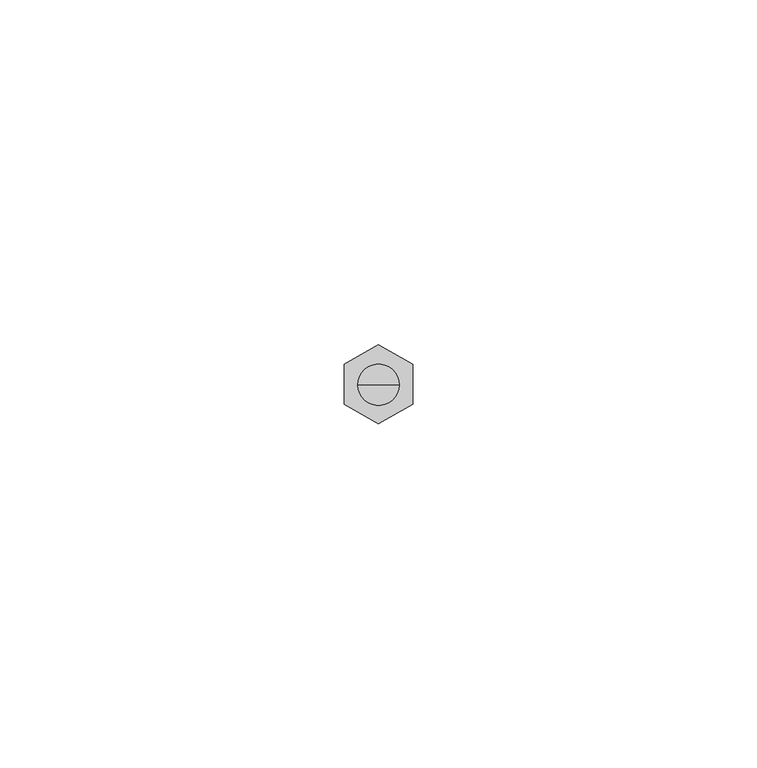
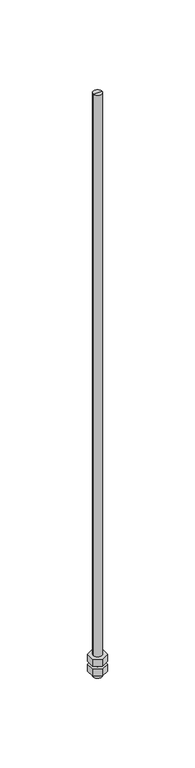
"""IFC4 building model written with IfcOpenShell, lengths in millimetres: proxy geometry, durlum_threaded_rod_M6 : durlum_threaded_rod_M6."""

from ifc_helpers import new_model, si_unit, frame, origin, origin_with_axes, place, context, project, spatial, polyline, circle_curve, outline, extrude, source, transform, mapped, element, save
from ifc_brep_helpers import plane_surface, cylinder_surface, advanced_brep


def generic_models_f72345d6(model_context):
    return source(origin(), model_context, "Body", "SolidModel", [
        extrude(outline(polyline([(5.0, 3.0421914), (5.0, -2.7313113), (0.0, -5.6180626), (-5.0, -2.7313113), (-5.0, 3.0421914), (0.0, 5.9289428), (5.0, 3.0421914)])), frame((0.0, 0.0, -7.0), z_axis=(0.0, 0.0, 1.0), x_axis=(1.0, 0.0, 0.0)), (0.0, 0.0, 1.0), 5.0),
        extrude(outline(polyline([(5.0, 3.0421914), (5.0, -2.7313113), (0.0, -5.6180626), (-5.0, -2.7313113), (-5.0, 3.0421914), (0.0, 5.9289428), (5.0, 3.0421914)])), origin_with_axes(), (0.0, 0.0, 1.0), 5.0),
        advanced_brep(
        [(-3.0, 0.0, 406.55), (3.0, 0.0, 406.55), (3.0, 0.0, -10.0), (-3.0, 0.0, -10.0), (0.0, 0.0, 406.55), (0.0, 0.0, -10.0)],
        [
            (0, 1, circle_curve(frame((0.0, 0.0, 406.55), z_axis=(0.0, 0.0, -1.0), x_axis=(1.0, 0.0, 0.0)), 3.0)),
            (1, 2),
            (2, 3, circle_curve(frame((0.0, 0.0, -10.0), z_axis=(0.0, 0.0, 1.0), x_axis=(1.0, 0.0, 0.0)), 3.0)),
            (3, 0),
            (1, 0, circle_curve(frame((0.0, 0.0, 406.55), z_axis=(0.0, 0.0, -1.0), x_axis=(1.0, 0.0, 0.0)), 3.0)),
            (3, 2, circle_curve(frame((0.0, 0.0, -10.0), z_axis=(0.0, 0.0, 1.0), x_axis=(1.0, 0.0, 0.0)), 3.0)),
            (4, 1),
            (0, 4),
            (2, 5),
            (5, 3),
        ],
        [
            cylinder_surface(frame((0.0, 0.0, -675.0), z_axis=(0.0, 0.0, 1.0), x_axis=(1.0, 0.0, 0.0)), 3.0),
            plane_surface(frame((0.0, 0.0, 406.55), z_axis=(0.0, 0.0, 1.0), x_axis=(1.0, 0.0, 0.0))),
            plane_surface(frame((0.0, 0.0, -10.0), z_axis=(0.0, 0.0, -1.0), x_axis=(1.0, 0.0, 0.0))),
        ],
        [
            (0, [[1, 2, 3, 4]]),
            (0, [[5, -4, 6, -2]]),
            (1, [[7, -1, 8]]),
            (1, [[-8, -5, -7]]),
            (2, [[-3, 9, 10]]),
            (2, [[-6, -10, -9]]),
        ],
    ),
    ])


if __name__ == "__main__":
    model = new_model("IFC4")
    model_context = context("Model", 3, world=origin())
    ifc_project = project(units=[si_unit("LENGTHUNIT", "METRE", prefix="MILLI")], contexts=[model_context])
    site = spatial("IfcSite", under=ifc_project)
    building = spatial("IfcBuilding", under=site)
    placement = place(None, origin())
    generic_models_shape = generic_models_f72345d6(model_context)
    element("IfcBuildingElementProxy", 1, Name="durlum_threaded_rod_M6 : durlum_threaded_rod_M6", ObjectType="durlum_threaded_rod_M6 : durlum_threaded_rod_M6", at=placement, inside=building, context=model_context, shape_type="MappedRepresentation", body=[
        mapped(generic_models_shape, transform((0.0, 0.0, 0.0), x_axis=(1.0, 0.0, 0.0), y_axis=(0.0, 1.0, 0.0), z_axis=(0.0, 0.0, 1.0))),
    ])
    save(model, "model.ifc")
